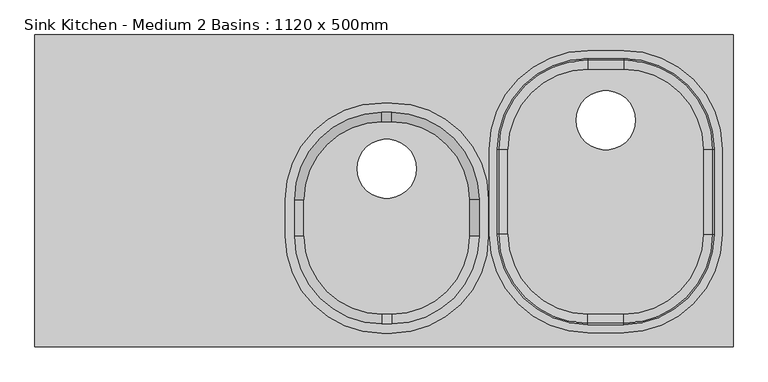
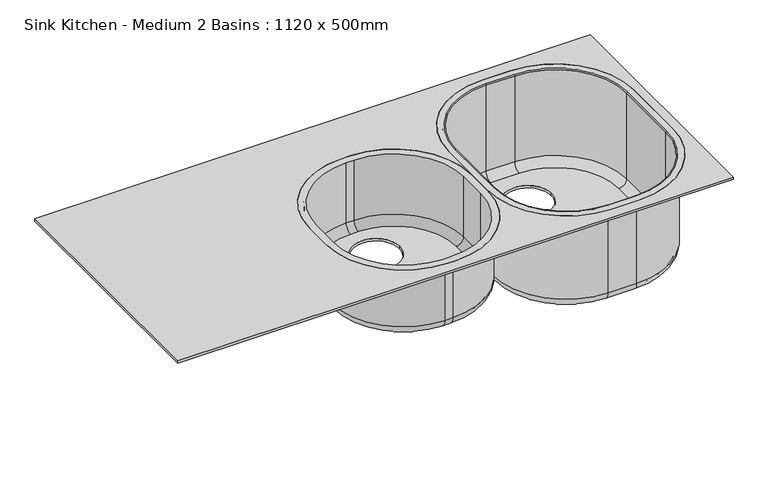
"""IFC4 building model written with IfcOpenShell, lengths in millimetres: flow terminal geometry, Sink Kitchen - Medium 2 Basins : 1120 x 500mm."""

from ifc_helpers import new_model, si_unit, point, frame, frame_2d, origin, place, context, project, spatial, polyline, circle_curve, ellipse_curve, trimmed, segment, composite_curve, outline, extrude, source, transform, mapped, element, save
from ifc_brep_helpers import plane_surface, cylinder_surface, revolved_surface, advanced_brep


def sink_kitchen_medium_2_basins_1120_x_500mm_da78ea91(model_context):
    return source(origin(), model_context, "Body", "SolidModel", [
        extrude(outline(polyline([(560.0, 250.2280567), (560.0, -249.7719433), (-560.0, -249.7719433), (-560.0, 250.2280567), (560.0, 250.2280567)]), holes=[composite_curve([segment(polyline([(-158.4681317, -14.2066294), (-158.4681317, -73.0110099)]), True, "CONTINUOUS"), segment(trimmed(circle_curve(frame_2d((-3.4681317, -73.0110099)), 155.0), [point((-158.4681317, -73.0110099))], [point((-3.4681317, -228.0110099))], True, "CARTESIAN"), True, "CONTINUOUS"), segment(polyline([(-3.4681317, -228.0110099), (12.516195, -228.0110099)]), True, "CONTINUOUS"), segment(trimmed(circle_curve(frame_2d((12.516195, -73.0110099)), 155.0), [point((12.516195, -228.0110099))], [point((167.516195, -73.0110099))], True, "CARTESIAN"), True, "CONTINUOUS"), segment(polyline([(167.516195, -73.0110099), (167.516195, -14.2066294)]), True, "CONTINUOUS"), segment(trimmed(circle_curve(frame_2d((12.516195, -14.2066294)), 155.0), [point((167.516195, -14.2066294))], [point((12.516195, 140.7933706))], True, "CARTESIAN"), True, "CONTINUOUS"), segment(polyline([(12.516195, 140.7933706), (-3.4681317, 140.7933706)]), True, "CONTINUOUS"), segment(trimmed(circle_curve(frame_2d((-3.4681317, -14.2066294)), 155.0), [point((-3.4681317, 140.7933706))], [point((-158.4681317, -14.2066294))], True, "CARTESIAN"), True, "CONTINUOUS")], self_intersect=False), composite_curve([segment(polyline([(168.8461501, 67.1910499), (168.8461501, -69.5832736)]), True, "CONTINUOUS"), segment(trimmed(circle_curve(frame_2d((326.8461501, -69.5832736)), 158.0), [point((168.8461501, -69.5832736))], [point((326.8461501, -227.5832736))], True, "CARTESIAN"), True, "CONTINUOUS"), segment(polyline([(326.8461501, -227.5832736), (384.6467756, -227.5832736)]), True, "CONTINUOUS"), segment(trimmed(circle_curve(frame_2d((384.6467756, -69.5832736)), 158.0), [point((384.6467756, -227.5832736))], [point((542.6467756, -69.5832736))], True, "CARTESIAN"), True, "CONTINUOUS"), segment(polyline([(542.6467756, -69.5832736), (542.6467756, 67.1910499)]), True, "CONTINUOUS"), segment(trimmed(circle_curve(frame_2d((384.6467756, 67.1910499)), 158.0), [point((542.6467756, 67.1910499))], [point((384.6467756, 225.1910499))], True, "CARTESIAN"), True, "CONTINUOUS"), segment(polyline([(384.6467756, 225.1910499), (326.8461501, 225.1910499)]), True, "CONTINUOUS"), segment(trimmed(circle_curve(frame_2d((326.8461501, 67.1910499)), 158.0), [point((326.8461501, 225.1910499))], [point((168.8461501, 67.1910499))], True, "CARTESIAN"), True, "CONTINUOUS")], self_intersect=False)]), frame((0.0, 0.0, 845.0), z_axis=(0.0, 0.0, 1.0), x_axis=(1.0, 0.0, 0.0)), (0.0, 0.0, 1.0), 5.0),
        advanced_brep(
        [(-3.4681317, -213.0110099, 721.9444931), (-143.4681317, -73.0110099, 721.9444931), (-143.4681317, -73.0110099, 850.0), (-3.4681317, -213.0110099, 850.0), (-3.4681317, -198.0110099, 706.9444931), (-128.4681317, -73.0110099, 706.9444931), (-3.4681317, -218.0110099, 721.9444931), (-148.4681317, -73.0110099, 721.9444931), (-128.4681317, -73.0110099, 701.9444931), (-3.4681317, -198.0110099, 701.9444931), (-3.4681317, -218.0110099, 845.0), (-148.4681317, -73.0110099, 845.0), (-3.4681317, -228.0110099, 850.0), (-158.4681317, -73.0110099, 850.0), (-158.4681317, -73.0110099, 845.0), (-3.4681317, -228.0110099, 845.0), (12.516195, -213.0110099, 850.0), (12.516195, -213.0110099, 721.9444931), (12.516195, -198.0110099, 706.9444931), (12.516195, -198.0110099, 701.9444931), (12.516195, -218.0110099, 721.9444931), (12.516195, -218.0110099, 845.0), (12.516195, -228.0110099, 845.0), (12.516195, -228.0110099, 850.0), (152.516195, -73.0110099, 850.0), (152.516195, -73.0110099, 721.9444931), (137.516195, -73.0110099, 706.9444931), (137.516195, -73.0110099, 701.9444931), (157.516195, -73.0110099, 721.9444931), (157.516195, -73.0110099, 845.0), (167.516195, -73.0110099, 845.0), (167.516195, -73.0110099, 850.0), (152.516195, -14.2066294, 850.0), (152.516195, -14.2066294, 721.9444931), (137.516195, -14.2066294, 706.9444931), (137.516195, -14.2066294, 701.9444931), (157.516195, -14.2066294, 721.9444931), (157.516195, -14.2066294, 845.0), (167.516195, -14.2066294, 845.0), (167.516195, -14.2066294, 850.0), (12.516195, 125.7933706, 850.0), (12.516195, 125.7933706, 721.9444931), (12.516195, 110.7933706, 706.9444931), (12.516195, 110.7933706, 701.9444931), (12.516195, 130.7933706, 721.9444931), (12.516195, 130.7933706, 845.0), (12.516195, 140.7933706, 845.0), (12.516195, 140.7933706, 850.0), (-3.4681317, 125.7933706, 850.0), (-3.4681317, 125.7933706, 721.9444931), (-3.4681317, 110.7933706, 706.9444931), (-3.4681317, 110.7933706, 701.9444931), (-3.4681317, 130.7933706, 721.9444931), (-3.4681317, 130.7933706, 845.0), (-3.4681317, 140.7933706, 845.0), (-3.4681317, 140.7933706, 850.0), (-143.4681317, -14.2066294, 850.0), (-143.4681317, -14.2066294, 721.9444931), (-128.4681317, -14.2066294, 706.9444931), (51.7559979, 35.6082677, 706.9444931), (-43.1104432, 35.6082677, 706.9444931), (-128.4681317, -14.2066294, 701.9444931), (51.7559979, 35.6082677, 701.9444931), (-43.1104432, 35.6082677, 701.9444931), (-148.4681317, -14.2066294, 721.9444931), (-148.4681317, -14.2066294, 845.0), (-158.4681317, -14.2066294, 845.0), (-158.4681317, -14.2066294, 850.0)],
        [
            (0, 1, circle_curve(frame((-3.4681317, -73.0110099, 721.9444931), z_axis=(0.0, 0.0, -1.0), x_axis=(-1.0, 0.0, 0.0)), 140.0)),
            (1, 2),
            (2, 3, circle_curve(frame((-3.4681317, -73.0110099, 850.0), z_axis=(0.0, 0.0, 1.0), x_axis=(-1.0, 0.0, 0.0)), 140.0)),
            (3, 0),
            (0, 4, circle_curve(frame((-3.4681317, -198.0110099, 721.9444931), z_axis=(1.0, 0.0, 0.0), x_axis=(0.0, 1.0, 0.0)), 15.0)),
            (4, 5, circle_curve(frame((-3.4681317, -73.0110099, 706.9444931), z_axis=(0.0, 0.0, -1.0), x_axis=(-1.0, 0.0, 0.0)), 125.0)),
            (5, 1, circle_curve(frame((-128.4681317, -73.0110099, 721.9444931), z_axis=(0.0, 1.0, 0.0), x_axis=(1.0, 0.0, 0.0)), 15.0)),
            (6, 7, circle_curve(frame((-3.4681317, -73.0110099, 721.9444931), z_axis=(0.0, 0.0, -1.0), x_axis=(-1.0, 0.0, 0.0)), 145.0)),
            (7, 8, circle_curve(frame((-128.4681317, -73.0110099, 721.9444931), z_axis=(0.0, -1.0, 0.0), x_axis=(1.0, 0.0, 0.0)), 20.0)),
            (8, 9, circle_curve(frame((-3.4681317, -73.0110099, 701.9444931), z_axis=(0.0, 0.0, 1.0), x_axis=(-1.0, 0.0, 0.0)), 125.0)),
            (9, 6, circle_curve(frame((-3.4681317, -198.0110099, 721.9444931), z_axis=(-1.0, 0.0, 0.0), x_axis=(0.0, 1.0, 0.0)), 20.0)),
            (6, 10),
            (10, 11, circle_curve(frame((-3.4681317, -73.0110099, 845.0), z_axis=(0.0, 0.0, -1.0), x_axis=(-1.0, 0.0, 0.0)), 145.0)),
            (11, 7),
            (12, 13, circle_curve(frame((-3.4681317, -73.0110099, 850.0), z_axis=(0.0, 0.0, -1.0), x_axis=(-1.0, 0.0, 0.0)), 155.0)),
            (13, 14),
            (14, 15, circle_curve(frame((-3.4681317, -73.0110099, 845.0), z_axis=(0.0, 0.0, 1.0), x_axis=(-1.0, 0.0, 0.0)), 155.0)),
            (15, 12),
            (3, 16),
            (16, 17),
            (17, 0),
            (17, 18, circle_curve(frame((12.516195, -198.0110099, 721.9444931), z_axis=(1.0, 0.0, 0.0), x_axis=(0.0, 1.0, 0.0)), 15.0)),
            (18, 4),
            (9, 19),
            (19, 20, circle_curve(frame((12.516195, -198.0110099, 721.9444931), z_axis=(-1.0, 0.0, 0.0), x_axis=(0.0, 1.0, 0.0)), 20.0)),
            (20, 6),
            (20, 21),
            (21, 10),
            (15, 22),
            (22, 23),
            (23, 12),
            (16, 24, circle_curve(frame((12.516195, -73.0110099, 850.0), z_axis=(0.0, 0.0, 1.0), x_axis=(0.0, -1.0, 0.0)), 140.0)),
            (24, 25),
            (25, 17, circle_curve(frame((12.516195, -73.0110099, 721.9444931), z_axis=(0.0, 0.0, -1.0), x_axis=(0.0, -1.0, 0.0)), 140.0)),
            (25, 26, circle_curve(frame((137.516195, -73.0110099, 721.9444931), z_axis=(0.0, 1.0, 0.0), x_axis=(-1.0, 0.0, 0.0)), 15.0)),
            (26, 18, circle_curve(frame((12.516195, -73.0110099, 706.9444931), z_axis=(0.0, 0.0, -1.0), x_axis=(0.0, -1.0, 0.0)), 125.0)),
            (19, 27, circle_curve(frame((12.516195, -73.0110099, 701.9444931), z_axis=(0.0, 0.0, 1.0), x_axis=(0.0, -1.0, 0.0)), 125.0)),
            (27, 28, circle_curve(frame((137.516195, -73.0110099, 721.9444931), z_axis=(0.0, -1.0, 0.0), x_axis=(-1.0, 0.0, 0.0)), 20.0)),
            (28, 20, circle_curve(frame((12.516195, -73.0110099, 721.9444931), z_axis=(0.0, 0.0, -1.0), x_axis=(0.0, -1.0, 0.0)), 145.0)),
            (28, 29),
            (29, 21, circle_curve(frame((12.516195, -73.0110099, 845.0), z_axis=(0.0, 0.0, -1.0), x_axis=(0.0, -1.0, 0.0)), 145.0)),
            (22, 30, circle_curve(frame((12.516195, -73.0110099, 845.0), z_axis=(0.0, 0.0, 1.0), x_axis=(0.0, -1.0, 0.0)), 155.0)),
            (30, 31),
            (31, 23, circle_curve(frame((12.516195, -73.0110099, 850.0), z_axis=(0.0, 0.0, -1.0), x_axis=(0.0, -1.0, 0.0)), 155.0)),
            (24, 32),
            (32, 33),
            (33, 25),
            (33, 34, circle_curve(frame((137.516195, -14.2066294, 721.9444931), z_axis=(0.0, 1.0, 0.0), x_axis=(-1.0, 0.0, 0.0)), 15.0)),
            (34, 26),
            (27, 35),
            (35, 36, circle_curve(frame((137.516195, -14.2066294, 721.9444931), z_axis=(0.0, -1.0, 0.0), x_axis=(-1.0, 0.0, 0.0)), 20.0)),
            (36, 28),
            (36, 37),
            (37, 29),
            (30, 38),
            (38, 39),
            (39, 31),
            (32, 40, circle_curve(frame((12.516195, -14.2066294, 850.0), z_axis=(0.0, 0.0, 1.0), x_axis=(1.0, 0.0, 0.0)), 140.0)),
            (40, 41),
            (41, 33, circle_curve(frame((12.516195, -14.2066294, 721.9444931), z_axis=(0.0, 0.0, -1.0), x_axis=(1.0, 0.0, 0.0)), 140.0)),
            (41, 42, circle_curve(frame((12.516195, 110.7933706, 721.9444931), z_axis=(-1.0, 0.0, 0.0), x_axis=(0.0, -1.0, 0.0)), 15.0)),
            (42, 34, circle_curve(frame((12.516195, -14.2066294, 706.9444931), z_axis=(0.0, 0.0, -1.0), x_axis=(1.0, 0.0, 0.0)), 125.0)),
            (35, 43, circle_curve(frame((12.516195, -14.2066294, 701.9444931), z_axis=(0.0, 0.0, 1.0), x_axis=(1.0, 0.0, 0.0)), 125.0)),
            (43, 44, circle_curve(frame((12.516195, 110.7933706, 721.9444931), z_axis=(1.0, 0.0, 0.0), x_axis=(0.0, -1.0, 0.0)), 20.0)),
            (44, 36, circle_curve(frame((12.516195, -14.2066294, 721.9444931), z_axis=(0.0, 0.0, -1.0), x_axis=(1.0, 0.0, 0.0)), 145.0)),
            (44, 45),
            (45, 37, circle_curve(frame((12.516195, -14.2066294, 845.0), z_axis=(0.0, 0.0, -1.0), x_axis=(1.0, 0.0, 0.0)), 145.0)),
            (38, 46, circle_curve(frame((12.516195, -14.2066294, 845.0), z_axis=(0.0, 0.0, 1.0), x_axis=(1.0, 0.0, 0.0)), 155.0)),
            (46, 47),
            (47, 39, circle_curve(frame((12.516195, -14.2066294, 850.0), z_axis=(0.0, 0.0, -1.0), x_axis=(1.0, 0.0, 0.0)), 155.0)),
            (40, 48),
            (48, 49),
            (49, 41),
            (49, 50, circle_curve(frame((-3.4681317, 110.7933706, 721.9444931), z_axis=(-1.0, 0.0, 0.0), x_axis=(0.0, -1.0, 0.0)), 15.0)),
            (50, 42),
            (43, 51),
            (51, 52, circle_curve(frame((-3.4681317, 110.7933706, 721.9444931), z_axis=(1.0, 0.0, 0.0), x_axis=(0.0, -1.0, 0.0)), 20.0)),
            (52, 44),
            (52, 53),
            (53, 45),
            (46, 54),
            (54, 55),
            (55, 47),
            (48, 56, circle_curve(frame((-3.4681317, -14.2066294, 850.0), z_axis=(0.0, 0.0, 1.0), x_axis=(0.0, 1.0, 0.0)), 140.0)),
            (56, 57),
            (57, 49, circle_curve(frame((-3.4681317, -14.2066294, 721.9444931), z_axis=(0.0, 0.0, -1.0), x_axis=(0.0, 1.0, 0.0)), 140.0)),
            (57, 58, circle_curve(frame((-128.4681317, -14.2066294, 721.9444931), z_axis=(0.0, -1.0, 0.0), x_axis=(1.0, 0.0, 0.0)), 15.0)),
            (58, 50, circle_curve(frame((-3.4681317, -14.2066294, 706.9444931), z_axis=(0.0, 0.0, -1.0), x_axis=(0.0, 1.0, 0.0)), 125.0)),
            (58, 5),
            (59, 60, circle_curve(frame((4.3227774, 35.6082677, 706.9444931), z_axis=(0.0, 0.0, -1.0), x_axis=(1.0, 0.0, 0.0)), 47.4332206)),
            (60, 59, circle_curve(frame((4.3227774, 35.6082677, 706.9444931), z_axis=(0.0, 0.0, -1.0), x_axis=(1.0, 0.0, 0.0)), 47.4332206)),
            (8, 61),
            (61, 51, circle_curve(frame((-3.4681317, -14.2066294, 701.9444931), z_axis=(0.0, 0.0, -1.0), x_axis=(0.0, 1.0, 0.0)), 125.0)),
            (62, 63, circle_curve(frame((4.3227774, 35.6082677, 701.9444931), z_axis=(0.0, 0.0, 1.0), x_axis=(1.0, 0.0, 0.0)), 47.4332206)),
            (63, 62, circle_curve(frame((4.3227774, 35.6082677, 701.9444931), z_axis=(0.0, 0.0, 1.0), x_axis=(1.0, 0.0, 0.0)), 47.4332206)),
            (61, 64, circle_curve(frame((-128.4681317, -14.2066294, 721.9444931), z_axis=(0.0, 1.0, 0.0), x_axis=(1.0, 0.0, 0.0)), 20.0)),
            (64, 52, circle_curve(frame((-3.4681317, -14.2066294, 721.9444931), z_axis=(0.0, 0.0, -1.0), x_axis=(0.0, 1.0, 0.0)), 145.0)),
            (64, 65),
            (65, 53, circle_curve(frame((-3.4681317, -14.2066294, 845.0), z_axis=(0.0, 0.0, -1.0), x_axis=(0.0, 1.0, 0.0)), 145.0)),
            (14, 66),
            (66, 54, circle_curve(frame((-3.4681317, -14.2066294, 845.0), z_axis=(0.0, 0.0, -1.0), x_axis=(0.0, 1.0, 0.0)), 155.0)),
            (65, 11),
            (66, 67),
            (67, 55, circle_curve(frame((-3.4681317, -14.2066294, 850.0), z_axis=(0.0, 0.0, -1.0), x_axis=(0.0, 1.0, 0.0)), 155.0)),
            (67, 13),
            (2, 56),
            (1, 57),
            (7, 64),
            (59, 62),
            (63, 60),
        ],
        [
            revolved_surface(polyline([(-143.4681317, -73.0110099, 850.0), (-143.4681317, -73.0110099, 721.9444931)]), (-3.4681317, -73.0110099, 0.0), (0.0, 0.0, 1.0)),
            revolved_surface(trimmed(ellipse_curve(frame((-128.4681317, -73.0110099, 721.9444931), z_axis=(0.0, -1.0, 0.0), x_axis=(1.0, 0.0, 0.0)), 15.0, 15.0), [point((-143.4681317, -73.0110099, 721.9444931))], [point((-128.4681317, -73.0110099, 706.9444931))], True, "CARTESIAN"), (-3.4681317, -73.0110099, 0.0), (0.0, 0.0, 1.0)),
            revolved_surface(trimmed(ellipse_curve(frame((-128.4681317, -73.0110099, 721.9444931), z_axis=(0.0, 1.0, 0.0), x_axis=(1.0, 0.0, 0.0)), 20.0, 20.0), [point((-128.4681317, -73.0110099, 701.9444931))], [point((-148.4681317, -73.0110099, 721.9444931))], True, "CARTESIAN"), (-3.4681317, -73.0110099, 0.0), (0.0, 0.0, 1.0)),
            cylinder_surface(frame((-3.4681317, -73.0110099, 0.0), z_axis=(0.0, 0.0, 1.0), x_axis=(-1.0, 0.0, 0.0)), 145.0),
            cylinder_surface(frame((-3.4681317, -73.0110099, 0.0), z_axis=(0.0, 0.0, 1.0), x_axis=(-1.0, 0.0, 0.0)), 155.0),
            plane_surface(frame((-3.4681317, -213.0110099, 850.0), z_axis=(0.0, 1.0, 0.0), x_axis=(1.0, 0.0, 0.0))),
            revolved_surface(polyline([(12.516195, -183.0110099, 721.9444931), (-3.4681317, -183.0110099, 721.9444931)]), (-3.4681317, -198.0110099, 721.9444931), (1.0, 0.0, 0.0)),
            cylinder_surface(frame((-3.4681317, -198.0110099, 721.9444931), z_axis=(-1.0, 0.0, 0.0), x_axis=(0.0, 1.0, 0.0)), 20.0),
            plane_surface(frame((-3.4681317, -218.0110099, 721.9444931), z_axis=(0.0, -1.0, 0.0), x_axis=(1.0, 0.0, 0.0))),
            plane_surface(frame((-3.4681317, -228.0110099, 845.0), z_axis=(0.0, -1.0, 0.0), x_axis=(1.0, 0.0, 0.0))),
            revolved_surface(polyline([(12.516195, -213.0110099, 850.0), (12.516195, -213.0110099, 721.9444931)]), (12.516195, -73.0110099, 0.0), (0.0, 0.0, 1.0)),
            revolved_surface(trimmed(ellipse_curve(frame((12.516195, -198.0110099, 721.9444931), z_axis=(1.0, 0.0, 0.0), x_axis=(0.0, 1.0, 0.0)), 15.0, 15.0), [point((12.516195, -213.0110099, 721.9444931))], [point((12.516195, -198.0110099, 706.9444931))], True, "CARTESIAN"), (12.516195, -73.0110099, 0.0), (0.0, 0.0, 1.0)),
            revolved_surface(trimmed(ellipse_curve(frame((12.516195, -198.0110099, 721.9444931), z_axis=(-1.0, 0.0, 0.0), x_axis=(0.0, 1.0, 0.0)), 20.0, 20.0), [point((12.516195, -198.0110099, 701.9444931))], [point((12.516195, -218.0110099, 721.9444931))], True, "CARTESIAN"), (12.516195, -73.0110099, 0.0), (0.0, 0.0, 1.0)),
            cylinder_surface(frame((12.516195, -73.0110099, 0.0), z_axis=(0.0, 0.0, 1.0), x_axis=(0.0, -1.0, 0.0)), 145.0),
            cylinder_surface(frame((12.516195, -73.0110099, 0.0), z_axis=(0.0, 0.0, 1.0), x_axis=(0.0, -1.0, 0.0)), 155.0),
            plane_surface(frame((152.516195, -73.0110099, 850.0), z_axis=(-1.0, 0.0, 0.0), x_axis=(0.0, 1.0, 0.0))),
            revolved_surface(polyline([(122.51619500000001, -14.206629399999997, 721.9444931), (122.51619500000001, -73.0110099, 721.9444931)]), (137.516195, -73.0110099, 721.9444931), (0.0, 1.0, 0.0)),
            cylinder_surface(frame((137.516195, -73.0110099, 721.9444931), z_axis=(0.0, -1.0, 0.0), x_axis=(-1.0, 0.0, 0.0)), 20.0),
            plane_surface(frame((157.516195, -73.0110099, 721.9444931), z_axis=(1.0, 0.0, 0.0), x_axis=(0.0, 1.0, 0.0))),
            plane_surface(frame((167.516195, -73.0110099, 845.0), z_axis=(1.0, 0.0, 0.0), x_axis=(0.0, 1.0, 0.0))),
            revolved_surface(polyline([(152.516195, -14.2066294, 850.0), (152.516195, -14.2066294, 721.9444931)]), (12.516195, -14.2066294, 0.0), (0.0, 0.0, 1.0)),
            revolved_surface(trimmed(ellipse_curve(frame((137.516195, -14.2066294, 721.9444931), z_axis=(0.0, 1.0, 0.0), x_axis=(-1.0, 0.0, 0.0)), 15.0, 15.0), [point((152.516195, -14.2066294, 721.9444931))], [point((137.516195, -14.2066294, 706.9444931))], True, "CARTESIAN"), (12.516195, -14.2066294, 0.0), (0.0, 0.0, 1.0)),
            revolved_surface(trimmed(ellipse_curve(frame((137.516195, -14.2066294, 721.9444931), z_axis=(0.0, -1.0, 0.0), x_axis=(-1.0, 0.0, 0.0)), 20.0, 20.0), [point((137.516195, -14.2066294, 701.9444931))], [point((157.516195, -14.2066294, 721.9444931))], True, "CARTESIAN"), (12.516195, -14.2066294, 0.0), (0.0, 0.0, 1.0)),
            cylinder_surface(frame((12.516195, -14.2066294, 0.0), z_axis=(0.0, 0.0, 1.0), x_axis=(1.0, 0.0, 0.0)), 145.0),
            cylinder_surface(frame((12.516195, -14.2066294, 0.0), z_axis=(0.0, 0.0, 1.0), x_axis=(1.0, 0.0, 0.0)), 155.0),
            plane_surface(frame((12.516195, 125.7933706, 850.0), z_axis=(0.0, -1.0, 0.0), x_axis=(-1.0, 0.0, 0.0))),
            revolved_surface(polyline([(-3.4681317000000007, 95.7933706, 721.9444931), (12.516195, 95.7933706, 721.9444931)]), (12.516195, 110.7933706, 721.9444931), (-1.0, 0.0, 0.0)),
            cylinder_surface(frame((12.516195, 110.7933706, 721.9444931), z_axis=(1.0, 0.0, 0.0), x_axis=(0.0, -1.0, 0.0)), 20.0),
            plane_surface(frame((12.516195, 130.7933706, 721.9444931), z_axis=(0.0, 1.0, 0.0), x_axis=(-1.0, 0.0, 0.0))),
            plane_surface(frame((12.516195, 140.7933706, 845.0), z_axis=(0.0, 1.0, 0.0), x_axis=(-1.0, 0.0, 0.0))),
            revolved_surface(polyline([(-3.4681317, 125.7933706, 850.0), (-3.4681317, 125.7933706, 721.9444931)]), (-3.4681317, -14.2066294, 0.0), (0.0, 0.0, 1.0)),
            revolved_surface(trimmed(ellipse_curve(frame((-3.4681317, 110.7933706, 721.9444931), z_axis=(-1.0, 0.0, 0.0), x_axis=(0.0, -1.0, 0.0)), 15.0, 15.0), [point((-3.4681317, 125.7933706, 721.9444931))], [point((-3.4681317, 110.7933706, 706.9444931))], True, "CARTESIAN"), (-3.4681317, -14.2066294, 0.0), (0.0, 0.0, 1.0)),
            plane_surface(frame((-3.4681317, -14.2066294, 706.9444931), z_axis=(0.0, 0.0, 1.0), x_axis=(0.0, 1.0, 0.0))),
            plane_surface(frame((-3.4681317, -14.2066294, 701.9444931), z_axis=(0.0, 0.0, -1.0), x_axis=(0.0, 1.0, 0.0))),
            revolved_surface(trimmed(ellipse_curve(frame((-3.4681317, 110.7933706, 721.9444931), z_axis=(1.0, 0.0, 0.0), x_axis=(0.0, -1.0, 0.0)), 20.0, 20.0), [point((-3.4681317, 110.7933706, 701.9444931))], [point((-3.4681317, 130.7933706, 721.9444931))], True, "CARTESIAN"), (-3.4681317, -14.2066294, 0.0), (0.0, 0.0, 1.0)),
            cylinder_surface(frame((-3.4681317, -14.2066294, 0.0), z_axis=(0.0, 0.0, 1.0), x_axis=(0.0, 1.0, 0.0)), 145.0),
            plane_surface(frame((-3.4681317, -14.2066294, 845.0), z_axis=(0.0, 0.0, -1.0), x_axis=(0.0, 1.0, 0.0))),
            cylinder_surface(frame((-3.4681317, -14.2066294, 0.0), z_axis=(0.0, 0.0, 1.0), x_axis=(0.0, 1.0, 0.0)), 155.0),
            plane_surface(frame((-3.4681317, -14.2066294, 850.0), z_axis=(0.0, 0.0, 1.0), x_axis=(0.0, 1.0, 0.0))),
            plane_surface(frame((-143.4681317, -14.2066294, 850.0), z_axis=(1.0, 0.0, 0.0), x_axis=(0.0, -1.0, 0.0))),
            revolved_surface(polyline([(-113.46813169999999, -73.0110099, 721.9444931), (-113.46813169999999, -14.2066294, 721.9444931)]), (-128.4681317, -14.2066294, 721.9444931), (0.0, -1.0, 0.0)),
            cylinder_surface(frame((-128.4681317, -14.2066294, 721.9444931), z_axis=(0.0, 1.0, 0.0), x_axis=(1.0, 0.0, 0.0)), 20.0),
            plane_surface(frame((-148.4681317, -14.2066294, 721.9444931), z_axis=(-1.0, 0.0, 0.0), x_axis=(0.0, -1.0, 0.0))),
            plane_surface(frame((-158.4681317, -14.2066294, 845.0), z_axis=(-1.0, 0.0, 0.0), x_axis=(0.0, -1.0, 0.0))),
            revolved_surface(polyline([(51.755998, 35.6082677, 701.9444931), (51.755998, 35.6082677, 706.9444931)]), (4.3227774, 35.6082677, 650.0), (0.0, 0.0, -1.0)),
        ],
        [
            (0, [[1, 2, 3, 4]]),
            (1, [[-1, 5, 6, 7]]),
            (2, [[8, 9, 10, 11]]),
            (3, [[-8, 12, 13, 14]]),
            (4, [[15, 16, 17, 18]]),
            (5, [[-4, 19, 20, 21]]),
            (6, [[-5, -21, 22, 23]]),
            (7, [[-11, 24, 25, 26]]),
            (8, [[-12, -26, 27, 28]]),
            (9, [[-18, 29, 30, 31]]),
            (10, [[-20, 32, 33, 34]]),
            (11, [[-22, -34, 35, 36]]),
            (12, [[-25, 37, 38, 39]]),
            (13, [[-27, -39, 40, 41]]),
            (14, [[-30, 42, 43, 44]]),
            (15, [[-33, 45, 46, 47]]),
            (16, [[-35, -47, 48, 49]]),
            (17, [[-38, 50, 51, 52]]),
            (18, [[-40, -52, 53, 54]]),
            (19, [[-43, 55, 56, 57]]),
            (20, [[-46, 58, 59, 60]]),
            (21, [[-48, -60, 61, 62]]),
            (22, [[-51, 63, 64, 65]]),
            (23, [[-53, -65, 66, 67]]),
            (24, [[-56, 68, 69, 70]]),
            (25, [[-59, 71, 72, 73]]),
            (26, [[-61, -73, 74, 75]]),
            (27, [[-64, 76, 77, 78]]),
            (28, [[-66, -78, 79, 80]]),
            (29, [[-69, 81, 82, 83]]),
            (30, [[-72, 84, 85, 86]]),
            (31, [[-74, -86, 87, 88]]),
            (32, [[-6, -23, -36, -49, -62, -75, -88, 89], [90, 91]]),
            (33, [[-10, 92, 93, -76, -63, -50, -37, -24], [94, 95]]),
            (34, [[-77, -93, 96, 97]]),
            (35, [[-79, -97, 98, 99]]),
            (36, [[-17, 100, 101, -81, -68, -55, -42, -29], [-13, -28, -41, -54, -67, -80, -99, 102]]),
            (37, [[-82, -101, 103, 104]]),
            (38, [[-15, -31, -44, -57, -70, -83, -104, 105], [-3, 106, -84, -71, -58, -45, -32, -19]]),
            (39, [[-2, 107, -85, -106]]),
            (40, [[-7, -89, -87, -107]]),
            (41, [[-9, 108, -96, -92]]),
            (42, [[-14, -102, -98, -108]]),
            (43, [[-16, -105, -103, -100]]),
            (44, [[-90, 109, -95, 110]]),
            (44, [[-91, -110, -94, -109]]),
        ],
    ),
        advanced_brep(
        [(326.8461501, 225.1910499, 845.0), (168.8461501, 67.1910499, 845.0), (168.8461501, 67.1910499, 850.0), (326.8461501, 225.1910499, 850.0), (326.8461501, 215.1910499, 665.0), (178.8461501, 67.1910499, 665.0), (178.8461501, 67.1910499, 845.0), (326.8461501, 215.1910499, 845.0), (326.8461501, 195.1910499, 645.0), (198.8461501, 67.1910499, 645.0), (326.8461501, 210.1910499, 665.0), (183.8461501, 67.1910499, 665.0), (198.8461501, 67.1910499, 650.0), (326.8461501, 195.1910499, 650.0), (326.8461501, 210.1910499, 848.0109686), (183.8461501, 67.1910499, 848.0109686), (326.8461501, 212.1800812, 850.0), (181.8571188, 67.1910499, 850.0), (384.6467756, 225.1910499, 850.0), (384.6467756, 225.1910499, 845.0), (384.6467756, 215.1910499, 845.0), (384.6467756, 215.1910499, 665.0), (384.6467756, 195.1910499, 645.0), (384.6467756, 195.1910499, 650.0), (384.6467756, 210.1910499, 665.0), (384.6467756, 210.1910499, 848.0109686), (384.6467756, 212.1800812, 850.0), (542.6467756, 67.1910499, 850.0), (542.6467756, 67.1910499, 845.0), (532.6467756, 67.1910499, 845.0), (532.6467756, 67.1910499, 665.0), (512.6467756, 67.1910499, 645.0), (512.6467756, 67.1910499, 650.0), (527.6467756, 67.1910499, 665.0), (527.6467756, 67.1910499, 848.0109686), (529.6358069, 67.1910499, 850.0), (542.6467756, -69.5832736, 850.0), (542.6467756, -69.5832736, 845.0), (532.6467756, -69.5832736, 845.0), (532.6467756, -69.5832736, 665.0), (512.6467756, -69.5832736, 645.0), (512.6467756, -69.5832736, 650.0), (527.6467756, -69.5832736, 665.0), (527.6467756, -69.5832736, 848.0109686), (529.6358069, -69.5832736, 850.0), (384.6467756, -227.5832736, 850.0), (384.6467756, -227.5832736, 845.0), (384.6467756, -217.5832736, 845.0), (384.6467756, -217.5832736, 665.0), (384.6467756, -197.5832736, 645.0), (384.6467756, -197.5832736, 650.0), (384.6467756, -212.5832736, 665.0), (384.6467756, -212.5832736, 848.0109686), (384.6467756, -214.5723049, 850.0), (326.8461501, -227.5832736, 850.0), (326.8461501, -227.5832736, 845.0), (326.8461501, -217.5832736, 845.0), (326.8461501, -217.5832736, 665.0), (326.8461501, -197.5832736, 645.0), (326.8461501, -197.5832736, 650.0), (326.8461501, -212.5832736, 665.0), (326.8461501, -212.5832736, 848.0109686), (326.8461501, -214.5723049, 850.0), (168.8461501, -69.5832736, 850.0), (168.8461501, -69.5832736, 845.0), (178.8461501, -69.5832736, 845.0), (178.8461501, -69.5832736, 665.0), (198.8461501, -69.5832736, 645.0), (198.8461501, -69.5832736, 650.0), (183.8461501, -69.5832736, 665.0), (183.8461501, -69.5832736, 848.0109686), (181.8571188, -69.5832736, 850.0), (403.1796834, 113.2141437, 645.0), (308.3132423, 113.2141437, 645.0), (403.1796834, 113.2141437, 650.0), (308.3132423, 113.2141437, 650.0)],
        [
            (0, 1, circle_curve(frame((326.8461501, 67.1910499, 845.0), z_axis=(0.0, 0.0, 1.0), x_axis=(-1.0, 0.0, 0.0)), 158.0)),
            (1, 2),
            (2, 3, circle_curve(frame((326.8461501, 67.1910499, 850.0), z_axis=(0.0, 0.0, -1.0), x_axis=(-1.0, 0.0, 0.0)), 158.0)),
            (3, 0),
            (4, 5, circle_curve(frame((326.8461501, 67.1910499, 665.0), z_axis=(0.0, 0.0, 1.0), x_axis=(-1.0, 0.0, 0.0)), 148.0)),
            (5, 6),
            (6, 7, circle_curve(frame((326.8461501, 67.1910499, 845.0), z_axis=(0.0, 0.0, -1.0), x_axis=(-1.0, 0.0, 0.0)), 148.0)),
            (7, 4),
            (4, 8, circle_curve(frame((326.8461501, 195.1910499, 665.0), z_axis=(-1.0, 0.0, 0.0), x_axis=(0.0, -1.0, 0.0)), 20.0)),
            (8, 9, circle_curve(frame((326.8461501, 67.1910499, 645.0), z_axis=(0.0, 0.0, 1.0), x_axis=(-1.0, 0.0, 0.0)), 128.0)),
            (9, 5, circle_curve(frame((198.8461501, 67.1910499, 665.0), z_axis=(0.0, 1.0, 0.0), x_axis=(1.0, 0.0, 0.0)), 20.0)),
            (10, 11, circle_curve(frame((326.8461501, 67.1910499, 665.0), z_axis=(0.0, 0.0, 1.0), x_axis=(-1.0, 0.0, 0.0)), 143.0)),
            (11, 12, circle_curve(frame((198.8461501, 67.1910499, 665.0), z_axis=(0.0, -1.0, 0.0), x_axis=(1.0, 0.0, 0.0)), 15.0)),
            (12, 13, circle_curve(frame((326.8461501, 67.1910499, 650.0), z_axis=(0.0, 0.0, -1.0), x_axis=(-1.0, 0.0, 0.0)), 128.0)),
            (13, 10, circle_curve(frame((326.8461501, 195.1910499, 665.0), z_axis=(1.0, 0.0, 0.0), x_axis=(0.0, -1.0, 0.0)), 15.0)),
            (10, 14),
            (14, 15, circle_curve(frame((326.8461501, 67.1910499, 848.0109686), z_axis=(0.0, 0.0, 1.0), x_axis=(-1.0, 0.0, 0.0)), 143.0)),
            (15, 11),
            (14, 16, circle_curve(frame((326.8461501, 212.1800812, 848.0109686), z_axis=(-1.0, 0.0, 0.0), x_axis=(0.0, -1.0, 0.0)), 1.9890314)),
            (16, 17, circle_curve(frame((326.8461501, 67.1910499, 850.0), z_axis=(0.0, 0.0, 1.0), x_axis=(-1.0, 0.0, 0.0)), 144.9890314)),
            (17, 15, circle_curve(frame((181.8571188, 67.1910499, 848.0109686), z_axis=(0.0, 1.0, 0.0), x_axis=(1.0, 0.0, 0.0)), 1.9890314)),
            (3, 18),
            (18, 19),
            (19, 0),
            (7, 20),
            (20, 21),
            (21, 4),
            (21, 22, circle_curve(frame((384.6467756, 195.1910499, 665.0), z_axis=(-1.0, 0.0, 0.0), x_axis=(0.0, -1.0, 0.0)), 20.0)),
            (22, 8),
            (13, 23),
            (23, 24, circle_curve(frame((384.6467756, 195.1910499, 665.0), z_axis=(1.0, 0.0, 0.0), x_axis=(0.0, -1.0, 0.0)), 15.0)),
            (24, 10),
            (24, 25),
            (25, 14),
            (25, 26, circle_curve(frame((384.6467756, 212.1800812, 848.0109686), z_axis=(-1.0, 0.0, 0.0), x_axis=(0.0, -1.0, 0.0)), 1.9890314)),
            (26, 16),
            (18, 27, circle_curve(frame((384.6467756, 67.1910499, 850.0), z_axis=(0.0, 0.0, -1.0), x_axis=(0.0, 1.0, 0.0)), 158.0)),
            (27, 28),
            (28, 19, circle_curve(frame((384.6467756, 67.1910499, 845.0), z_axis=(0.0, 0.0, 1.0), x_axis=(0.0, 1.0, 0.0)), 158.0)),
            (20, 29, circle_curve(frame((384.6467756, 67.1910499, 845.0), z_axis=(0.0, 0.0, -1.0), x_axis=(0.0, 1.0, 0.0)), 148.0)),
            (29, 30),
            (30, 21, circle_curve(frame((384.6467756, 67.1910499, 665.0), z_axis=(0.0, 0.0, 1.0), x_axis=(0.0, 1.0, 0.0)), 148.0)),
            (30, 31, circle_curve(frame((512.6467756, 67.1910499, 665.0), z_axis=(0.0, 1.0, 0.0), x_axis=(-1.0, 0.0, 0.0)), 20.0)),
            (31, 22, circle_curve(frame((384.6467756, 67.1910499, 645.0), z_axis=(0.0, 0.0, 1.0), x_axis=(0.0, 1.0, 0.0)), 128.0)),
            (23, 32, circle_curve(frame((384.6467756, 67.1910499, 650.0), z_axis=(0.0, 0.0, -1.0), x_axis=(0.0, 1.0, 0.0)), 128.0)),
            (32, 33, circle_curve(frame((512.6467756, 67.1910499, 665.0), z_axis=(0.0, -1.0, 0.0), x_axis=(-1.0, 0.0, 0.0)), 15.0)),
            (33, 24, circle_curve(frame((384.6467756, 67.1910499, 665.0), z_axis=(0.0, 0.0, 1.0), x_axis=(0.0, 1.0, 0.0)), 143.0)),
            (33, 34),
            (34, 25, circle_curve(frame((384.6467756, 67.1910499, 848.0109686), z_axis=(0.0, 0.0, 1.0), x_axis=(0.0, 1.0, 0.0)), 143.0)),
            (34, 35, circle_curve(frame((529.6358069, 67.1910499, 848.0109686), z_axis=(0.0, 1.0, 0.0), x_axis=(-1.0, 0.0, 0.0)), 1.9890314)),
            (35, 26, circle_curve(frame((384.6467756, 67.1910499, 850.0), z_axis=(0.0, 0.0, 1.0), x_axis=(0.0, 1.0, 0.0)), 144.9890314)),
            (27, 36),
            (36, 37),
            (37, 28),
            (29, 38),
            (38, 39),
            (39, 30),
            (39, 40, circle_curve(frame((512.6467756, -69.5832736, 665.0), z_axis=(0.0, 1.0, 0.0), x_axis=(-1.0, 0.0, 0.0)), 20.0)),
            (40, 31),
            (32, 41),
            (41, 42, circle_curve(frame((512.6467756, -69.5832736, 665.0), z_axis=(0.0, -1.0, 0.0), x_axis=(-1.0, 0.0, 0.0)), 15.0)),
            (42, 33),
            (42, 43),
            (43, 34),
            (43, 44, circle_curve(frame((529.6358069, -69.5832736, 848.0109686), z_axis=(0.0, 1.0, 0.0), x_axis=(-1.0, 0.0, 0.0)), 1.9890314)),
            (44, 35),
            (36, 45, circle_curve(frame((384.6467756, -69.5832736, 850.0), z_axis=(0.0, 0.0, -1.0), x_axis=(1.0, 0.0, 0.0)), 158.0)),
            (45, 46),
            (46, 37, circle_curve(frame((384.6467756, -69.5832736, 845.0), z_axis=(0.0, 0.0, 1.0), x_axis=(1.0, 0.0, 0.0)), 158.0)),
            (38, 47, circle_curve(frame((384.6467756, -69.5832736, 845.0), z_axis=(0.0, 0.0, -1.0), x_axis=(1.0, 0.0, 0.0)), 148.0)),
            (47, 48),
            (48, 39, circle_curve(frame((384.6467756, -69.5832736, 665.0), z_axis=(0.0, 0.0, 1.0), x_axis=(1.0, 0.0, 0.0)), 148.0)),
            (48, 49, circle_curve(frame((384.6467756, -197.5832736, 665.0), z_axis=(1.0, 0.0, 0.0), x_axis=(0.0, 1.0, 0.0)), 20.0)),
            (49, 40, circle_curve(frame((384.6467756, -69.5832736, 645.0), z_axis=(0.0, 0.0, 1.0), x_axis=(1.0, 0.0, 0.0)), 128.0)),
            (41, 50, circle_curve(frame((384.6467756, -69.5832736, 650.0), z_axis=(0.0, 0.0, -1.0), x_axis=(1.0, 0.0, 0.0)), 128.0)),
            (50, 51, circle_curve(frame((384.6467756, -197.5832736, 665.0), z_axis=(-1.0, 0.0, 0.0), x_axis=(0.0, 1.0, 0.0)), 15.0)),
            (51, 42, circle_curve(frame((384.6467756, -69.5832736, 665.0), z_axis=(0.0, 0.0, 1.0), x_axis=(1.0, 0.0, 0.0)), 143.0)),
            (51, 52),
            (52, 43, circle_curve(frame((384.6467756, -69.5832736, 848.0109686), z_axis=(0.0, 0.0, 1.0), x_axis=(1.0, 0.0, 0.0)), 143.0)),
            (52, 53, circle_curve(frame((384.6467756, -214.5723049, 848.0109686), z_axis=(1.0, 0.0, 0.0), x_axis=(0.0, 1.0, 0.0)), 1.9890314)),
            (53, 44, circle_curve(frame((384.6467756, -69.5832736, 850.0), z_axis=(0.0, 0.0, 1.0), x_axis=(1.0, 0.0, 0.0)), 144.9890314)),
            (45, 54),
            (54, 55),
            (55, 46),
            (47, 56),
            (56, 57),
            (57, 48),
            (57, 58, circle_curve(frame((326.8461501, -197.5832736, 665.0), z_axis=(1.0, 0.0, 0.0), x_axis=(0.0, 1.0, 0.0)), 20.0)),
            (58, 49),
            (50, 59),
            (59, 60, circle_curve(frame((326.8461501, -197.5832736, 665.0), z_axis=(-1.0, 0.0, 0.0), x_axis=(0.0, 1.0, 0.0)), 15.0)),
            (60, 51),
            (60, 61),
            (61, 52),
            (61, 62, circle_curve(frame((326.8461501, -214.5723049, 848.0109686), z_axis=(1.0, 0.0, 0.0), x_axis=(0.0, 1.0, 0.0)), 1.9890314)),
            (62, 53),
            (54, 63, circle_curve(frame((326.8461501, -69.5832736, 850.0), z_axis=(0.0, 0.0, -1.0), x_axis=(0.0, -1.0, 0.0)), 158.0)),
            (63, 64),
            (64, 55, circle_curve(frame((326.8461501, -69.5832736, 845.0), z_axis=(0.0, 0.0, 1.0), x_axis=(0.0, -1.0, 0.0)), 158.0)),
            (56, 65, circle_curve(frame((326.8461501, -69.5832736, 845.0), z_axis=(0.0, 0.0, -1.0), x_axis=(0.0, -1.0, 0.0)), 148.0)),
            (65, 66),
            (66, 57, circle_curve(frame((326.8461501, -69.5832736, 665.0), z_axis=(0.0, 0.0, 1.0), x_axis=(0.0, -1.0, 0.0)), 148.0)),
            (66, 67, circle_curve(frame((198.8461501, -69.5832736, 665.0), z_axis=(0.0, -1.0, 0.0), x_axis=(1.0, 0.0, 0.0)), 20.0)),
            (67, 58, circle_curve(frame((326.8461501, -69.5832736, 645.0), z_axis=(0.0, 0.0, 1.0), x_axis=(0.0, -1.0, 0.0)), 128.0)),
            (59, 68, circle_curve(frame((326.8461501, -69.5832736, 650.0), z_axis=(0.0, 0.0, -1.0), x_axis=(0.0, -1.0, 0.0)), 128.0)),
            (68, 69, circle_curve(frame((198.8461501, -69.5832736, 665.0), z_axis=(0.0, 1.0, 0.0), x_axis=(1.0, 0.0, 0.0)), 15.0)),
            (69, 60, circle_curve(frame((326.8461501, -69.5832736, 665.0), z_axis=(0.0, 0.0, 1.0), x_axis=(0.0, -1.0, 0.0)), 143.0)),
            (69, 70),
            (70, 61, circle_curve(frame((326.8461501, -69.5832736, 848.0109686), z_axis=(0.0, 0.0, 1.0), x_axis=(0.0, -1.0, 0.0)), 143.0)),
            (70, 71, circle_curve(frame((181.8571188, -69.5832736, 848.0109686), z_axis=(0.0, -1.0, 0.0), x_axis=(1.0, 0.0, 0.0)), 1.9890314)),
            (71, 62, circle_curve(frame((326.8461501, -69.5832736, 850.0), z_axis=(0.0, 0.0, 1.0), x_axis=(0.0, -1.0, 0.0)), 144.9890314)),
            (2, 63),
            (71, 17),
            (1, 64),
            (6, 65),
            (5, 66),
            (9, 67),
            (72, 73, circle_curve(frame((355.7464629, 113.2141437, 645.0), z_axis=(0.0, 0.0, 1.0), x_axis=(1.0, 0.0, 0.0)), 47.4332206)),
            (73, 72, circle_curve(frame((355.7464629, 113.2141437, 645.0), z_axis=(0.0, 0.0, 1.0), x_axis=(1.0, 0.0, 0.0)), 47.4332206)),
            (12, 68),
            (74, 75, circle_curve(frame((355.7464629, 113.2141437, 650.0), z_axis=(0.0, 0.0, -1.0), x_axis=(1.0, 0.0, 0.0)), 47.4332206)),
            (75, 74, circle_curve(frame((355.7464629, 113.2141437, 650.0), z_axis=(0.0, 0.0, -1.0), x_axis=(1.0, 0.0, 0.0)), 47.4332206)),
            (11, 69),
            (15, 70),
            (74, 72),
            (73, 75),
        ],
        [
            cylinder_surface(frame((326.8461501, 67.1910499, 650.0), z_axis=(0.0, 0.0, -1.0), x_axis=(-1.0, 0.0, 0.0)), 158.0),
            cylinder_surface(frame((326.8461501, 67.1910499, 650.0), z_axis=(0.0, 0.0, -1.0), x_axis=(-1.0, 0.0, 0.0)), 148.0),
            revolved_surface(trimmed(ellipse_curve(frame((198.8461501, 67.1910499, 665.0), z_axis=(0.0, -1.0, 0.0), x_axis=(1.0, 0.0, 0.0)), 20.0, 20.0), [point((178.8461501, 67.1910499, 665.0))], [point((198.8461501, 67.1910499, 645.0))], True, "CARTESIAN"), (326.8461501, 67.1910499, 650.0), (0.0, 0.0, -1.0)),
            revolved_surface(trimmed(ellipse_curve(frame((198.8461501, 67.1910499, 665.0), z_axis=(0.0, 1.0, 0.0), x_axis=(1.0, 0.0, 0.0)), 15.0, 15.0), [point((198.8461501, 67.1910499, 650.0))], [point((183.8461501, 67.1910499, 665.0))], True, "CARTESIAN"), (326.8461501, 67.1910499, 650.0), (0.0, 0.0, -1.0)),
            revolved_surface(polyline([(183.8461501, 67.1910499, 665.0), (183.8461501, 67.1910499, 848.0109686)]), (326.8461501, 67.1910499, 650.0), (0.0, 0.0, -1.0)),
            revolved_surface(trimmed(ellipse_curve(frame((181.8571188, 67.1910499, 848.0109686), z_axis=(0.0, -1.0, 0.0), x_axis=(1.0, 0.0, 0.0)), 1.9890314, 1.9890314), [point((183.8461501, 67.1910499, 848.0109686))], [point((181.8571188, 67.1910499, 850.0))], True, "CARTESIAN"), (326.8461501, 67.1910499, 650.0), (0.0, 0.0, -1.0)),
            plane_surface(frame((326.8461501, 225.1910499, 850.0), z_axis=(0.0, 1.0, 0.0), x_axis=(1.0, 0.0, 0.0))),
            plane_surface(frame((326.8461501, 215.1910499, 845.0), z_axis=(0.0, 1.0, 0.0), x_axis=(1.0, 0.0, 0.0))),
            cylinder_surface(frame((326.8461501, 195.1910499, 665.0), z_axis=(-1.0, 0.0, 0.0), x_axis=(0.0, -1.0, 0.0)), 20.0),
            revolved_surface(polyline([(384.6467756, 180.1910499, 665.0), (326.8461501, 180.1910499, 665.0)]), (326.8461501, 195.1910499, 665.0), (1.0, 0.0, 0.0)),
            plane_surface(frame((326.8461501, 210.1910499, 665.0), z_axis=(0.0, -1.0, 0.0), x_axis=(1.0, 0.0, 0.0))),
            cylinder_surface(frame((326.8461501, 212.1800812, 848.0109686), z_axis=(-1.0, 0.0, 0.0), x_axis=(0.0, -1.0, 0.0)), 1.9890314),
            cylinder_surface(frame((384.6467756, 67.1910499, 650.0), z_axis=(0.0, 0.0, -1.0), x_axis=(0.0, 1.0, 0.0)), 158.0),
            cylinder_surface(frame((384.6467756, 67.1910499, 650.0), z_axis=(0.0, 0.0, -1.0), x_axis=(0.0, 1.0, 0.0)), 148.0),
            revolved_surface(trimmed(ellipse_curve(frame((384.6467756, 195.1910499, 665.0), z_axis=(-1.0, 0.0, 0.0), x_axis=(0.0, -1.0, 0.0)), 20.0, 20.0), [point((384.6467756, 215.1910499, 665.0))], [point((384.6467756, 195.1910499, 645.0))], True, "CARTESIAN"), (384.6467756, 67.1910499, 650.0), (0.0, 0.0, -1.0)),
            revolved_surface(trimmed(ellipse_curve(frame((384.6467756, 195.1910499, 665.0), z_axis=(1.0, 0.0, 0.0), x_axis=(0.0, -1.0, 0.0)), 15.0, 15.0), [point((384.6467756, 195.1910499, 650.0))], [point((384.6467756, 210.1910499, 665.0))], True, "CARTESIAN"), (384.6467756, 67.1910499, 650.0), (0.0, 0.0, -1.0)),
            revolved_surface(polyline([(384.6467756, 210.1910499, 665.0), (384.6467756, 210.1910499, 848.0109686)]), (384.6467756, 67.1910499, 650.0), (0.0, 0.0, -1.0)),
            revolved_surface(trimmed(ellipse_curve(frame((384.6467756, 212.1800812, 848.0109686), z_axis=(-1.0, 0.0, 0.0), x_axis=(0.0, -1.0, 0.0)), 1.9890314, 1.9890314), [point((384.6467756, 210.1910499, 848.0109686))], [point((384.6467756, 212.1800812, 850.0))], True, "CARTESIAN"), (384.6467756, 67.1910499, 650.0), (0.0, 0.0, -1.0)),
            plane_surface(frame((542.6467756, 67.1910499, 850.0), z_axis=(1.0, 0.0, 0.0), x_axis=(0.0, -1.0, 0.0))),
            plane_surface(frame((532.6467756, 67.1910499, 845.0), z_axis=(1.0, 0.0, 0.0), x_axis=(0.0, -1.0, 0.0))),
            cylinder_surface(frame((512.6467756, 67.1910499, 665.0), z_axis=(0.0, 1.0, 0.0), x_axis=(-1.0, 0.0, 0.0)), 20.0),
            revolved_surface(polyline([(497.64677559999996, -69.58327359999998, 665.0), (497.64677559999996, 67.1910499, 665.0)]), (512.6467756, 67.1910499, 665.0), (0.0, -1.0, 0.0)),
            plane_surface(frame((527.6467756, 67.1910499, 665.0), z_axis=(-1.0, 0.0, 0.0), x_axis=(0.0, -1.0, 0.0))),
            cylinder_surface(frame((529.6358069, 67.1910499, 848.0109686), z_axis=(0.0, 1.0, 0.0), x_axis=(-1.0, 0.0, 0.0)), 1.9890314),
            cylinder_surface(frame((384.6467756, -69.5832736, 650.0), z_axis=(0.0, 0.0, -1.0), x_axis=(1.0, 0.0, 0.0)), 158.0),
            cylinder_surface(frame((384.6467756, -69.5832736, 650.0), z_axis=(0.0, 0.0, -1.0), x_axis=(1.0, 0.0, 0.0)), 148.0),
            revolved_surface(trimmed(ellipse_curve(frame((512.6467756, -69.5832736, 665.0), z_axis=(0.0, 1.0, 0.0), x_axis=(-1.0, 0.0, 0.0)), 20.0, 20.0), [point((532.6467756, -69.5832736, 665.0))], [point((512.6467756, -69.5832736, 645.0))], True, "CARTESIAN"), (384.6467756, -69.5832736, 650.0), (0.0, 0.0, -1.0)),
            revolved_surface(trimmed(ellipse_curve(frame((512.6467756, -69.5832736, 665.0), z_axis=(0.0, -1.0, 0.0), x_axis=(-1.0, 0.0, 0.0)), 15.0, 15.0), [point((512.6467756, -69.5832736, 650.0))], [point((527.6467756, -69.5832736, 665.0))], True, "CARTESIAN"), (384.6467756, -69.5832736, 650.0), (0.0, 0.0, -1.0)),
            revolved_surface(polyline([(527.6467756, -69.5832736, 665.0), (527.6467756, -69.5832736, 848.0109686)]), (384.6467756, -69.5832736, 650.0), (0.0, 0.0, -1.0)),
            revolved_surface(trimmed(ellipse_curve(frame((529.6358069, -69.5832736, 848.0109686), z_axis=(0.0, 1.0, 0.0), x_axis=(-1.0, 0.0, 0.0)), 1.9890314, 1.9890314), [point((527.6467756, -69.5832736, 848.0109686))], [point((529.6358069, -69.5832736, 850.0))], True, "CARTESIAN"), (384.6467756, -69.5832736, 650.0), (0.0, 0.0, -1.0)),
            plane_surface(frame((384.6467756, -227.5832736, 850.0), z_axis=(0.0, -1.0, 0.0), x_axis=(-1.0, 0.0, 0.0))),
            plane_surface(frame((384.6467756, -217.5832736, 845.0), z_axis=(0.0, -1.0, 0.0), x_axis=(-1.0, 0.0, 0.0))),
            cylinder_surface(frame((384.6467756, -197.5832736, 665.0), z_axis=(1.0, 0.0, 0.0), x_axis=(0.0, 1.0, 0.0)), 20.0),
            revolved_surface(polyline([(326.8461501, -182.5832736, 665.0), (384.6467756, -182.5832736, 665.0)]), (384.6467756, -197.5832736, 665.0), (-1.0, 0.0, 0.0)),
            plane_surface(frame((384.6467756, -212.5832736, 665.0), z_axis=(0.0, 1.0, 0.0), x_axis=(-1.0, 0.0, 0.0))),
            cylinder_surface(frame((384.6467756, -214.5723049, 848.0109686), z_axis=(1.0, 0.0, 0.0), x_axis=(0.0, 1.0, 0.0)), 1.9890314),
            cylinder_surface(frame((326.8461501, -69.5832736, 650.0), z_axis=(0.0, 0.0, -1.0), x_axis=(0.0, -1.0, 0.0)), 158.0),
            cylinder_surface(frame((326.8461501, -69.5832736, 650.0), z_axis=(0.0, 0.0, -1.0), x_axis=(0.0, -1.0, 0.0)), 148.0),
            revolved_surface(trimmed(ellipse_curve(frame((326.8461501, -197.5832736, 665.0), z_axis=(1.0, 0.0, 0.0), x_axis=(0.0, 1.0, 0.0)), 20.0, 20.0), [point((326.8461501, -217.5832736, 665.0))], [point((326.8461501, -197.5832736, 645.0))], True, "CARTESIAN"), (326.8461501, -69.5832736, 650.0), (0.0, 0.0, -1.0)),
            revolved_surface(trimmed(ellipse_curve(frame((326.8461501, -197.5832736, 665.0), z_axis=(-1.0, 0.0, 0.0), x_axis=(0.0, 1.0, 0.0)), 15.0, 15.0), [point((326.8461501, -197.5832736, 650.0))], [point((326.8461501, -212.5832736, 665.0))], True, "CARTESIAN"), (326.8461501, -69.5832736, 650.0), (0.0, 0.0, -1.0)),
            revolved_surface(polyline([(326.8461501, -212.58327359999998, 665.0), (326.8461501, -212.58327359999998, 848.0109686)]), (326.8461501, -69.5832736, 650.0), (0.0, 0.0, -1.0)),
            revolved_surface(trimmed(ellipse_curve(frame((326.8461501, -214.5723049, 848.0109686), z_axis=(1.0, 0.0, 0.0), x_axis=(0.0, 1.0, 0.0)), 1.9890314, 1.9890314), [point((326.8461501, -212.5832736, 848.0109686))], [point((326.8461501, -214.5723049, 850.0))], True, "CARTESIAN"), (326.8461501, -69.5832736, 650.0), (0.0, 0.0, -1.0)),
            plane_surface(frame((181.8571188, -69.5832736, 850.0), z_axis=(0.0, 0.0, 1.0), x_axis=(0.0, 1.0, 0.0))),
            plane_surface(frame((168.8461501, -69.5832736, 850.0), z_axis=(-1.0, 0.0, 0.0), x_axis=(0.0, 1.0, 0.0))),
            plane_surface(frame((168.8461501, -69.5832736, 845.0), z_axis=(0.0, 0.0, -1.0), x_axis=(0.0, 1.0, 0.0))),
            plane_surface(frame((178.8461501, -69.5832736, 845.0), z_axis=(-1.0, 0.0, 0.0), x_axis=(0.0, 1.0, 0.0))),
            cylinder_surface(frame((198.8461501, -69.5832736, 665.0), z_axis=(0.0, -1.0, 0.0), x_axis=(1.0, 0.0, 0.0)), 20.0),
            plane_surface(frame((198.8461501, -69.5832736, 645.0), z_axis=(0.0, 0.0, -1.0), x_axis=(0.0, 1.0, 0.0))),
            plane_surface(frame((216.5463829, -69.5832736, 650.0), z_axis=(0.0, 0.0, 1.0), x_axis=(0.0, 1.0, 0.0))),
            revolved_surface(polyline([(213.8461501, 67.19104989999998, 665.0), (213.8461501, -69.5832736, 665.0)]), (198.8461501, -69.5832736, 665.0), (0.0, 1.0, 0.0)),
            plane_surface(frame((183.8461501, -69.5832736, 665.0), z_axis=(1.0, 0.0, 0.0), x_axis=(0.0, 1.0, 0.0))),
            cylinder_surface(frame((181.8571188, -69.5832736, 848.0109686), z_axis=(0.0, -1.0, 0.0), x_axis=(1.0, 0.0, 0.0)), 1.9890314),
            revolved_surface(polyline([(403.1796835, 113.2141437, 645.0), (403.1796835, 113.2141437, 650.0)]), (355.7464629, 113.2141437, 650.0), (0.0, 0.0, -1.0)),
        ],
        [
            (0, [[1, 2, 3, 4]]),
            (1, [[5, 6, 7, 8]]),
            (2, [[-5, 9, 10, 11]]),
            (3, [[12, 13, 14, 15]]),
            (4, [[-12, 16, 17, 18]]),
            (5, [[-17, 19, 20, 21]]),
            (6, [[-4, 22, 23, 24]]),
            (7, [[-8, 25, 26, 27]]),
            (8, [[-9, -27, 28, 29]]),
            (9, [[-15, 30, 31, 32]]),
            (10, [[-16, -32, 33, 34]]),
            (11, [[-19, -34, 35, 36]]),
            (12, [[-23, 37, 38, 39]]),
            (13, [[-26, 40, 41, 42]]),
            (14, [[-28, -42, 43, 44]]),
            (15, [[-31, 45, 46, 47]]),
            (16, [[-33, -47, 48, 49]]),
            (17, [[-35, -49, 50, 51]]),
            (18, [[-38, 52, 53, 54]]),
            (19, [[-41, 55, 56, 57]]),
            (20, [[-43, -57, 58, 59]]),
            (21, [[-46, 60, 61, 62]]),
            (22, [[-48, -62, 63, 64]]),
            (23, [[-50, -64, 65, 66]]),
            (24, [[-53, 67, 68, 69]]),
            (25, [[-56, 70, 71, 72]]),
            (26, [[-58, -72, 73, 74]]),
            (27, [[-61, 75, 76, 77]]),
            (28, [[-63, -77, 78, 79]]),
            (29, [[-65, -79, 80, 81]]),
            (30, [[-68, 82, 83, 84]]),
            (31, [[-71, 85, 86, 87]]),
            (32, [[-73, -87, 88, 89]]),
            (33, [[-76, 90, 91, 92]]),
            (34, [[-78, -92, 93, 94]]),
            (35, [[-80, -94, 95, 96]]),
            (36, [[-83, 97, 98, 99]]),
            (37, [[-86, 100, 101, 102]]),
            (38, [[-88, -102, 103, 104]]),
            (39, [[-91, 105, 106, 107]]),
            (40, [[-93, -107, 108, 109]]),
            (41, [[-95, -109, 110, 111]]),
            (42, [[-3, 112, -97, -82, -67, -52, -37, -22], [-20, -36, -51, -66, -81, -96, -111, 113]]),
            (43, [[-2, 114, -98, -112]]),
            (44, [[-1, -24, -39, -54, -69, -84, -99, -114], [-7, 115, -100, -85, -70, -55, -40, -25]]),
            (45, [[-6, 116, -101, -115]]),
            (46, [[-11, 117, -103, -116]]),
            (47, [[-10, -29, -44, -59, -74, -89, -104, -117], [118, 119]]),
            (48, [[-14, 120, -105, -90, -75, -60, -45, -30], [121, 122]]),
            (49, [[-13, 123, -106, -120]]),
            (50, [[-18, 124, -108, -123]]),
            (51, [[-21, -113, -110, -124]]),
            (52, [[-121, 125, -119, 126]]),
            (52, [[-122, -126, -118, -125]]),
        ],
    ),
    ])


if __name__ == "__main__":
    model = new_model("IFC4")
    model_context = context("Model", 3, world=origin())
    ifc_project = project(units=[si_unit("LENGTHUNIT", "METRE", prefix="MILLI")], contexts=[model_context])
    site = spatial("IfcSite", under=ifc_project)
    building = spatial("IfcBuilding", under=site)
    placement = place(None, origin())
    sink_kitchen_medium_2_basins_1120_x_500mm_shape = sink_kitchen_medium_2_basins_1120_x_500mm_da78ea91(model_context)
    element("IfcFlowTerminal", 1, ObjectType="Sink Kitchen - Medium 2 Basins : 1120 x 500mm", at=placement, inside=building, context=model_context, shape_type="MappedRepresentation", body=[
        mapped(sink_kitchen_medium_2_basins_1120_x_500mm_shape, transform((0.0, 0.0, 0.0), x_axis=(1.0, 0.0, 0.0), y_axis=(0.0, 1.0, 0.0), z_axis=(0.0, 0.0, 1.0))),
    ])
    save(model, "model.ifc")
